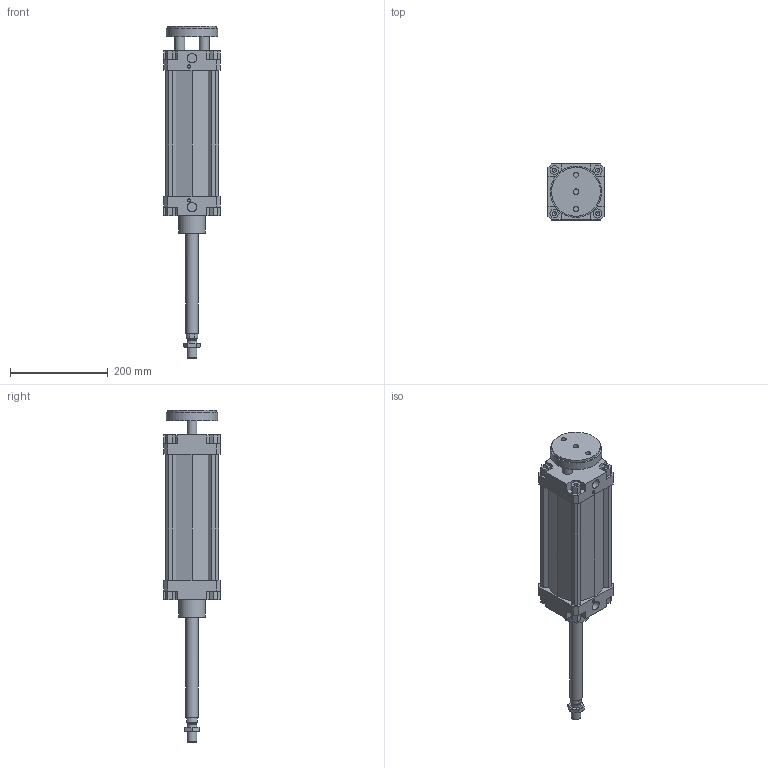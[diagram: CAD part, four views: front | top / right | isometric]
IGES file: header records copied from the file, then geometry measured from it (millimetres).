
Global section: file name: 132#_100_0200_02; native system: Autodesk Inventor 2014; preprocessor: unknown; author: A. Manieri; date: 20161006.163715; units: millimetre
Bounding box: 115 x 115 x 680 mm (x, y, z)
Volume: 2596275.5 mm3; surface area: 430353.1 mm2
Topology: 3 solids, 3 shells, 220 faces, 589 edges, 397 vertices
Faces by surface type: bspline 220
